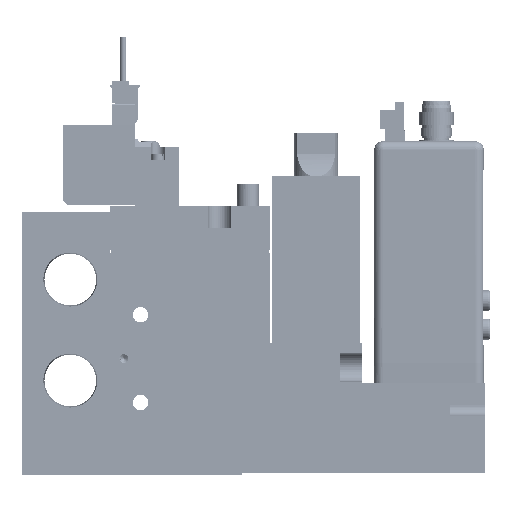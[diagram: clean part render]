
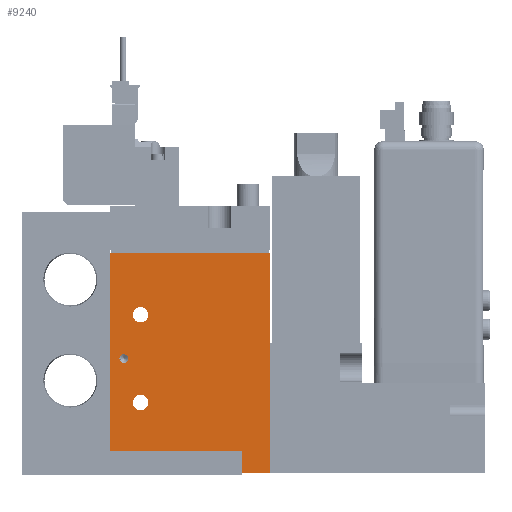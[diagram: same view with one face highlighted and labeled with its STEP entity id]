
A CAD part, left-side view. The second image highlights one B-rep face of the part: STEP entity #9240.
In plain terms, the highlighted planar face has unit normal (-1, 0, 0) as drawn and (1, 0, 0) by its records, which use the part's own axes.
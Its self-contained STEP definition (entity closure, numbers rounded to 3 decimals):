
#9240=ADVANCED_FACE('',(#19711,#19712,#19713,#19714),#19715,.F.);
#19711=FACE_BOUND('',#33598,.T.);
#19712=FACE_BOUND('',#33599,.T.);
#19713=FACE_BOUND('',#33600,.T.);
#19714=FACE_OUTER_BOUND('',#33601,.T.);
#19715=PLANE('',#33602);
#33598=EDGE_LOOP('',(#65755));
#33599=EDGE_LOOP('',(#65756));
#33600=EDGE_LOOP('',(#65757));
#33601=EDGE_LOOP('',(#65758,#65759,#65760,#65761));
#33602=AXIS2_PLACEMENT_3D('',#65762,#65763,#65764);
#65755=ORIENTED_EDGE('',*,*,#95932,.F.);
#65756=ORIENTED_EDGE('',*,*,#95927,.T.);
#65757=ORIENTED_EDGE('',*,*,#95924,.T.);
#65758=ORIENTED_EDGE('',*,*,#95942,.T.);
#65759=ORIENTED_EDGE('',*,*,#95935,.F.);
#65760=ORIENTED_EDGE('',*,*,#95937,.F.);
#65761=ORIENTED_EDGE('',*,*,#95941,.T.);
#65762=CARTESIAN_POINT('',(8.5,-19.444,50.0));
#65763=DIRECTION('',(-1.0,0.0,0.0));
#65764=DIRECTION('',(0.0,0.0,1.0));
#95924=EDGE_CURVE('',#116330,#116330,#116331,.T.);
#95927=EDGE_CURVE('',#116336,#116336,#116337,.T.);
#95932=EDGE_CURVE('',#116344,#116344,#116345,.T.);
#95935=EDGE_CURVE('',#116348,#116346,#116350,.T.);
#95937=EDGE_CURVE('',#116351,#116348,#116353,.T.);
#95941=EDGE_CURVE('',#116351,#116356,#116358,.T.);
#95942=EDGE_CURVE('',#116356,#116346,#116359,.T.);
#116330=VERTEX_POINT('',#148844);
#116331=CIRCLE('',#148845,1.75);
#116336=VERTEX_POINT('',#148850);
#116337=CIRCLE('',#148851,1.75);
#116344=VERTEX_POINT('',#148858);
#116345=CIRCLE('',#148859,1.0);
#116346=VERTEX_POINT('',#148860);
#116348=VERTEX_POINT('',#148863);
#116350=LINE('',#148866,#148867);
#116351=VERTEX_POINT('',#148868);
#116353=LINE('',#148871,#148872);
#116356=VERTEX_POINT('',#148875);
#116358=LINE('',#148878,#148879);
#116359=LINE('',#148880,#148881);
#148844=CARTESIAN_POINT('',(8.5,-10.694,16.0));
#148845=AXIS2_PLACEMENT_3D('',#176902,#176903,#176904);
#148850=CARTESIAN_POINT('',(8.5,-10.694,36.0));
#148851=AXIS2_PLACEMENT_3D('',#176911,#176912,#176913);
#148858=CARTESIAN_POINT('',(8.5,-17.244,26.0));
#148859=AXIS2_PLACEMENT_3D('',#176923,#176924,#176925);
#148860=CARTESIAN_POINT('',(8.5,17.056,0.0));
#148863=CARTESIAN_POINT('',(8.5,17.056,50.0));
#148866=CARTESIAN_POINT('',(8.5,17.056,50.0));
#148867=VECTOR('',#176928,1.0);
#148868=CARTESIAN_POINT('',(8.5,-19.444,50.0));
#148871=CARTESIAN_POINT('',(8.5,-19.444,50.0));
#148872=VECTOR('',#176930,1.0);
#148875=CARTESIAN_POINT('',(8.5,-19.444,0.0));
#148878=CARTESIAN_POINT('',(8.5,-19.444,50.0));
#148879=VECTOR('',#176935,1.0);
#148880=CARTESIAN_POINT('',(8.5,-19.444,0.0));
#148881=VECTOR('',#176936,1.0);
#176902=CARTESIAN_POINT('',(8.5,-12.444,16.0));
#176903=DIRECTION('',(-1.0,0.0,0.0));
#176904=DIRECTION('',(0.0,1.0,0.0));
#176911=CARTESIAN_POINT('',(8.5,-12.444,36.0));
#176912=DIRECTION('',(-1.0,0.0,0.0));
#176913=DIRECTION('',(0.0,1.0,0.0));
#176923=CARTESIAN_POINT('',(8.5,-16.244,26.0));
#176924=DIRECTION('',(1.0,0.,0.0));
#176925=DIRECTION('',(0.,-1.0,0.0));
#176928=DIRECTION('',(0.0,0.0,-1.0));
#176930=DIRECTION('',(0.0,1.0,0.0));
#176935=DIRECTION('',(0.0,0.0,-1.0));
#176936=DIRECTION('',(0.0,1.0,0.0));
